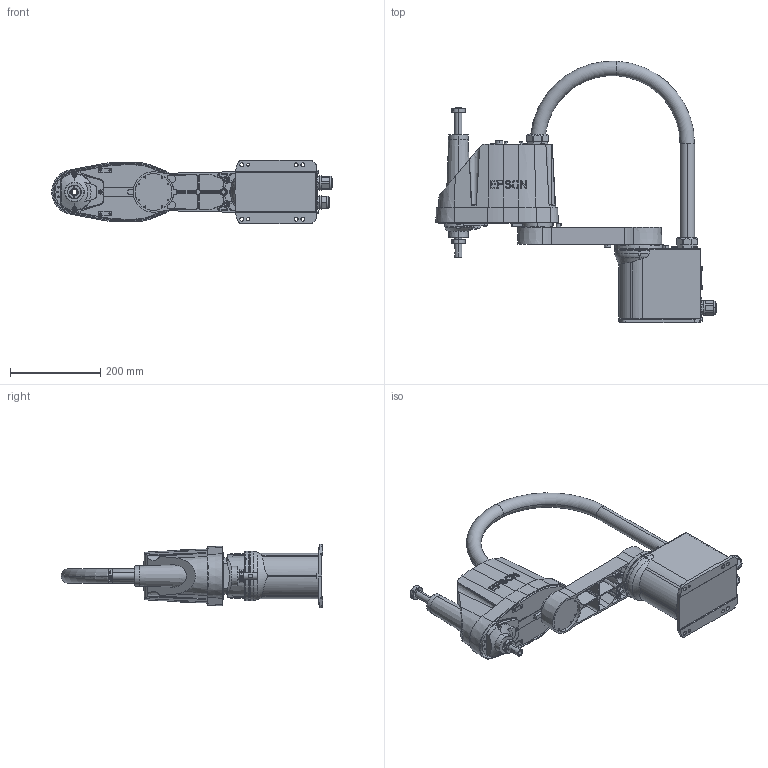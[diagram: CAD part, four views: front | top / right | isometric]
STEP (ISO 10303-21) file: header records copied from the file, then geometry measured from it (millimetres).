
FILE_DESCRIPTION (( 'STEP AP214' ), '1' );
FILE_NAME ('LA3-x401S.STEP', '2026-08-03T17:48:41', ( '' ), ( '' ), 'SwSTEP 2.0', 'SolidWorks 2020', '' );
FILE_SCHEMA (( 'AUTOMOTIVE_DESIGN' ));
Length unit declared in the file: millimetre
Products named in the file (6): LA3-A_J2_ARM; LA3-A_BASE; LA3-A_J1_ARM; LA3-A_Z_AXIS; LA3-x401S; LA3-A_CONDUIT
Assembly tree (5 placements, depth 2):
  LA3-x401S
    LA3-A_BASE
    LA3-A_J1_ARM
    LA3-A_J2_ARM
    LA3-A_Z_AXIS
    LA3-A_CONDUIT
Bounding box: 620 x 577.84 x 140 mm (x, y, z)
Volume: 8242555.6 mm3; surface area: 652990.7 mm2
Topology: 4 solids, 5 shells, 2250 faces, 5845 edges, 3767 vertices
Faces by surface type: plane 1278, cone 475, cylinder 418, torus 57, sphere 22
Entity records: 84994 total; most frequent: CARTESIAN_POINT 21113, ORIENTED_EDGE 11614, DIRECTION 11495, EDGE_CURVE 5807, AXIS2_PLACEMENT_3D 4062, VERTEX_POINT 3767, VECTOR 3371, LINE 3371
